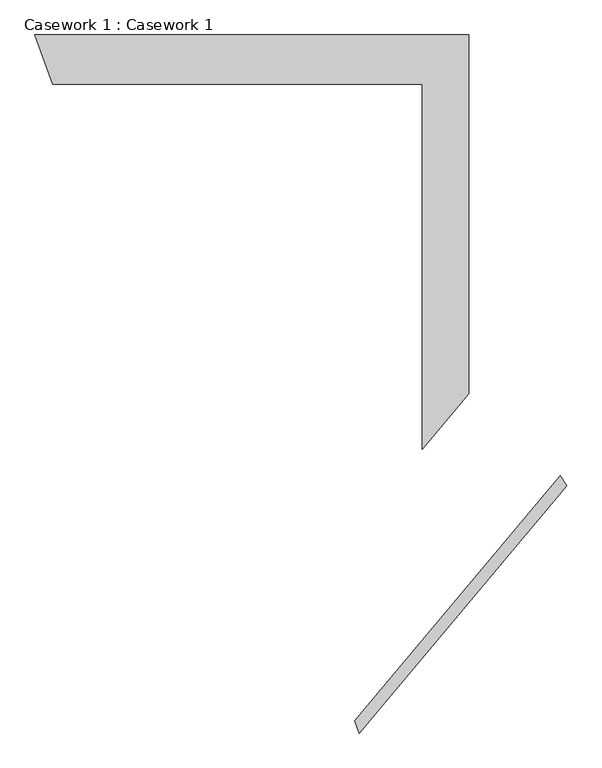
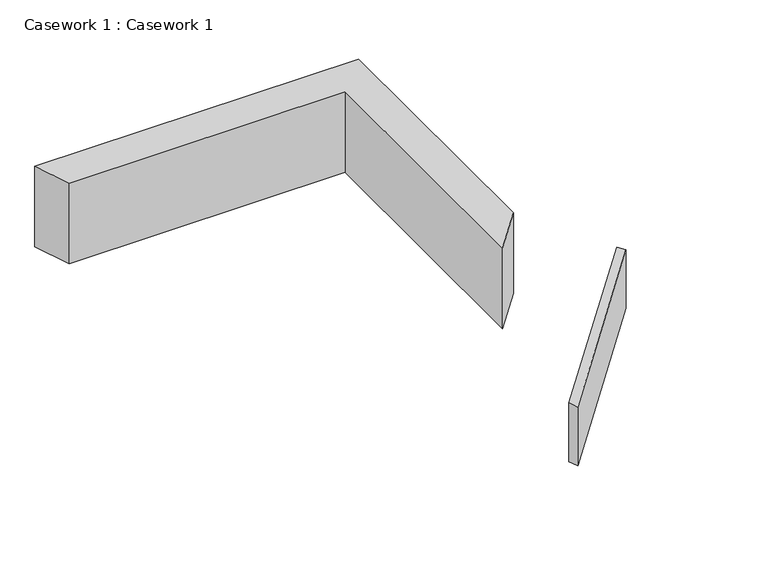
"""IFC4 building model written with IfcOpenShell, lengths in millimetres: furniture geometry, Casework 1 : Casework 1."""

import ifcopenshell
import ifcopenshell.guid

model = None  # the IFC model being written
_history = None  # IfcOwnerHistory: only IFC2X3 demands one
_inside = {}  # id of a spatial element -> (the spatial element, [elements in it])
_under = {}  # id of a project, library or spatial element -> (it, [spatial elements below it])
_declared = {}  # id of a project -> (the project, [libraries it declares])
_typed = {}  # id of a type object -> (the type object, [elements of that type])
_made_of = {}  # id of a material, layer set ... -> (it, [elements and type objects made of it])


def new_model(schema):
    """Start an empty IFC model of exactly this schema.

    Asked for "IFC4X3", IfcOpenShell would pick the latest addendum, in which some entities
    have other attributes; the version numbers below select the first issue.
    IFC2X3 requires an IfcOwnerHistory on every rooted entity: one is made here for all.
    """
    global model, _history
    if schema == "IFC4X3":
        model = ifcopenshell.file(schema_version=(4, 3, 0, 0))
    else:
        model = ifcopenshell.file(schema=schema)
    _inside.clear()
    _under.clear()
    _declared.clear()
    _typed.clear()
    _made_of.clear()
    _history = None
    if model.schema == "IFC2X3":
        org = make("IfcOrganization", Name="unknown")
        user = make(
            "IfcPersonAndOrganization",
            ThePerson=make("IfcPerson", FamilyName="unknown"),
            TheOrganization=org,
        )
        app = make(
            "IfcApplication",
            ApplicationDeveloper=org,
            Version="unknown",
            ApplicationFullName="unknown",
            ApplicationIdentifier="unknown",
        )
        _history = make(
            "IfcOwnerHistory",
            OwningUser=user,
            OwningApplication=app,
            ChangeAction="ADDED",
            CreationDate=0,
        )
    return model


def make(cls, **values):
    """One entity of the class cls with the attributes given. An attribute that is None is left unset."""
    return model.create_entity(
        cls, **{name: value for name, value in values.items() if value is not None}
    )


def rooted(cls, **values):
    """An entity with a GlobalId (a new one), such as an element, a storey or a relation."""
    return make(cls, GlobalId=ifcopenshell.guid.new(), OwnerHistory=_history, **values)


def si_unit(unit_type, name, prefix=None):
    """IfcSIUnit, for example si_unit("LENGTHUNIT", "METRE", prefix="MILLI")."""
    return make("IfcSIUnit", UnitType=unit_type, Prefix=prefix, Name=name)


def assignment(units):
    """IfcUnitAssignment: the units of a project."""
    return None if units is None else make("IfcUnitAssignment", Units=units)


def point(xyz):
    """IfcCartesianPoint."""
    return None if xyz is None else make("IfcCartesianPoint", Coordinates=xyz)


def direction(xyz):
    """IfcDirection."""
    return None if xyz is None else make("IfcDirection", DirectionRatios=xyz)


def frame(location, z_axis=None, x_axis=None):
    """IfcAxis2Placement3D, a coordinate frame: its origin and axes. An axis left out is left unset."""
    return make(
        "IfcAxis2Placement3D",
        Location=point(location),
        Axis=direction(z_axis),
        RefDirection=direction(x_axis),
    )


def origin():
    """The frame at (0, 0, 0) with its axes left unset."""
    return frame((0.0, 0.0, 0.0))


def place(relative_to, where):
    """IfcLocalPlacement: puts the frame where relative to a parent placement (None: the world)."""
    return make(
        "IfcLocalPlacement", PlacementRelTo=relative_to, RelativePlacement=where
    )


def context(
    kind, dimensions, precision=None, world=None, true_north=None, identifier=None
):
    """IfcGeometricRepresentationContext, for example the 3D "Model" context."""
    return make(
        "IfcGeometricRepresentationContext",
        ContextIdentifier=identifier,
        ContextType=kind,
        CoordinateSpaceDimension=dimensions,
        Precision=precision,
        WorldCoordinateSystem=world,
        TrueNorth=true_north,
    )


def project(units=None, contexts=None):
    """IfcProject with its units and contexts."""
    return rooted(
        "IfcProject",
        Name="project",
        RepresentationContexts=contexts,
        UnitsInContext=assignment(units),
    )


def spatial(cls, under=None, at=None, **own):
    """A site, building, storey or space (cls), placed at a placement, below another one or the project."""
    s = rooted(cls, ObjectPlacement=at, **own)
    if under is not None:
        _under.setdefault(under.id(), (under, []))[1].append(s)
    return s


def polyline(points):
    """IfcPolyline through the points."""
    return make("IfcPolyline", Points=[point(p) for p in points])


def outline(outer, holes=None, kind="AREA"):
    """IfcArbitraryClosedProfileDef: a profile drawn as a closed curve; with holes, ...WithVoids."""
    if holes is None:
        return make("IfcArbitraryClosedProfileDef", ProfileType=kind, OuterCurve=outer)
    return make(
        "IfcArbitraryProfileDefWithVoids",
        ProfileType=kind,
        OuterCurve=outer,
        InnerCurves=holes,
    )


def extrude(swept, where, along, depth):
    """IfcExtrudedAreaSolid: the profile swept, set in the frame where, extruded along a direction by depth."""
    return make(
        "IfcExtrudedAreaSolid",
        SweptArea=swept,
        Position=where,
        ExtrudedDirection=direction(along),
        Depth=depth,
    )


def shape(context_of_items, identifier, shape_type, items):
    """IfcShapeRepresentation: the items that make up one representation, for example the "Body"."""
    return make(
        "IfcShapeRepresentation",
        ContextOfItems=context_of_items,
        RepresentationIdentifier=identifier,
        RepresentationType=shape_type,
        Items=items,
    )


def source(mapping_origin, context_of_items, identifier, shape_type, items):
    """IfcRepresentationMap: a shape defined once, which mapped items show again and again."""
    return make(
        "IfcRepresentationMap",
        MappingOrigin=mapping_origin,
        MappedRepresentation=shape(context_of_items, identifier, shape_type, items),
    )


def transform(
    local_origin,
    x_axis=None,
    y_axis=None,
    z_axis=None,
    scale=None,
    scale2=None,
    scale3=None,
    uniform=True,
):
    """IfcCartesianTransformationOperator3D, or its non-uniform kind. x_axis, y_axis, z_axis: its Axis1, 2, 3."""
    if uniform:
        return make(
            "IfcCartesianTransformationOperator3D",
            Axis1=direction(x_axis),
            Axis2=direction(y_axis),
            LocalOrigin=point(local_origin),
            Scale=scale,
            Axis3=direction(z_axis),
        )
    return make(
        "IfcCartesianTransformationOperator3DnonUniform",
        Axis1=direction(x_axis),
        Axis2=direction(y_axis),
        LocalOrigin=point(local_origin),
        Scale=scale,
        Axis3=direction(z_axis),
        Scale2=scale2,
        Scale3=scale3,
    )


def mapped(mapping_source, mapping_target):
    """IfcMappedItem: shows the shape of a source again, moved by a transform."""
    return make(
        "IfcMappedItem", MappingSource=mapping_source, MappingTarget=mapping_target
    )


def made_of(thing, what):
    """Note that an element or type object is made of a material, layer set ...; save() writes the relation."""
    if what is not None:
        _made_of.setdefault(what.id(), (what, []))[1].append(thing)
    return thing


def element(
    cls,
    number,
    at=None,
    inside=None,
    cuts=None,
    type_object=None,
    material=None,
    context=None,
    identifier="Body",
    shape_type=None,
    held_by="IfcProductDefinitionShape",
    body=None,
    shapes=None,
    **own,
):
    """One element of the class cls, such as IfcWall. Its Tag is "e" and its number.

    at: its placement. inside: the storey or other place that contains it. cuts: it is an
    opening in that element (IfcRelVoidsElement). A single representation is given by context,
    identifier, shape_type and body (its items); several are given by shapes. held_by: the class
    of the entity that holds the representations. save() writes the other relations.
    """
    e = rooted(cls, Tag="e%d" % number, ObjectPlacement=at, **own)
    if body is not None:
        shapes = [shape(context, identifier, shape_type, body)]
    if shapes is not None:
        e.Representation = make(held_by, Representations=shapes)
    if inside is not None:
        _inside.setdefault(inside.id(), (inside, []))[1].append(e)
    if cuts is not None:
        rooted(
            "IfcRelVoidsElement", RelatingBuildingElement=cuts, RelatedOpeningElement=e
        )
    if type_object is not None:
        _typed.setdefault(type_object.id(), (type_object, []))[1].append(e)
    return made_of(e, material)


def aggregate(whole, parts):
    """IfcRelAggregates: a whole, such as a stair, and the parts it consists of."""
    return rooted("IfcRelAggregates", RelatingObject=whole, RelatedObjects=parts)


def save(model, path):
    """Write the relations noted so far, then the file.

    IfcRelAggregates (storeys below a building ...), IfcRelContainedInSpatialStructure (elements
    in a storey), IfcRelDefinesByType, IfcRelAssociatesMaterial and IfcRelDeclares: one each for
    every whole, place, type object, material and project.
    """
    for whole, parts in _under.values():
        aggregate(whole, parts)
    for where, things in _inside.values():
        rooted(
            "IfcRelContainedInSpatialStructure",
            RelatedElements=things,
            RelatingStructure=where,
        )
    for kind, things in _typed.values():
        rooted("IfcRelDefinesByType", RelatedObjects=things, RelatingType=kind)
    for what, things in _made_of.values():
        rooted("IfcRelAssociatesMaterial", RelatedObjects=things, RelatingMaterial=what)
    for by, libraries in _declared.values():
        rooted("IfcRelDeclares", RelatingContext=by, RelatedDefinitions=libraries)
    model.write(path)


def casework_1_casework_1_4e80d40b(model_context):
    return source(origin(), model_context, "Body", "SweptSolid", [
        extrude(outline(polyline([(-17427.6372385, 5395.2329869), (-11901.8751536, 5395.2329869), (-11901.8751536, 823.0743216), (-12493.2246204, 118.3314701), (-12493.2246204, 4769.6443716), (-17199.9416036, 4769.6443716), (-17427.6372385, 5395.2329869)])), frame((0.0, 0.0, -2214.2977629), z_axis=(0.0, 0.0, 1.0), x_axis=(1.0, 0.0, 0.0)), (0.0, 0.0, 1.0), 1450.6251445),
        extrude(outline(polyline([(-10738.4238701, -218.7077664), (-10652.4639319, -342.9621359), (-13296.973424, -3494.5658239), (-13356.6802529, -3339.0242169), (-10738.4238701, -218.7077664)])), frame((0.0, 0.0, -2214.2977629), z_axis=(0.0, 0.0, 1.0), x_axis=(1.0, 0.0, 0.0)), (0.0, 0.0, 1.0), 1057.2608093),
    ])


if __name__ == "__main__":
    model = new_model("IFC4")
    model_context = context("Model", 3, world=origin())
    ifc_project = project(units=[si_unit("LENGTHUNIT", "METRE", prefix="MILLI")], contexts=[model_context])
    site = spatial("IfcSite", under=ifc_project)
    building = spatial("IfcBuilding", under=site)
    placement = place(None, origin())
    casework_1_casework_1_shape = casework_1_casework_1_4e80d40b(model_context)
    element("IfcFurniture", 1, ObjectType="Casework 1 : Casework 1", at=placement, inside=building, context=model_context, shape_type="MappedRepresentation", body=[
        mapped(casework_1_casework_1_shape, transform((0.0, 0.0, 0.0), x_axis=(1.0, 0.0, 0.0), y_axis=(0.0, 1.0, 0.0), z_axis=(0.0, 0.0, 1.0))),
    ])
    save(model, "model.ifc")
